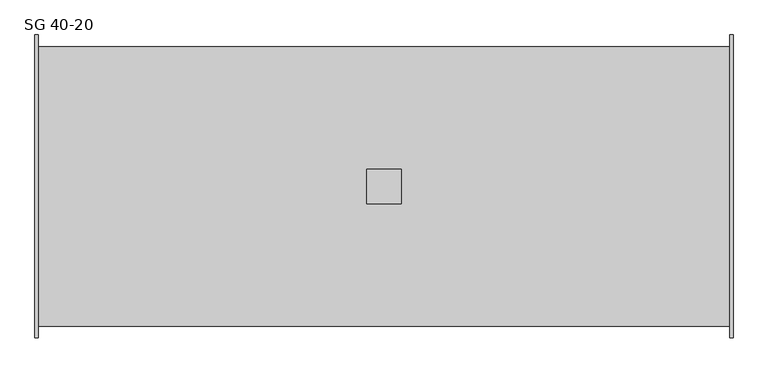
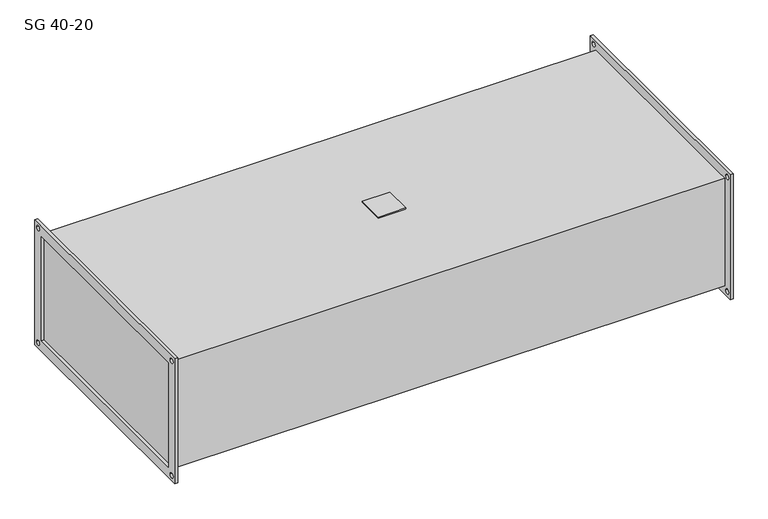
"""IFC4 building model written with IfcOpenShell, lengths in millimetres: damper geometry, KORF_Шумоглушитель_SG : SG 40-20."""

from ifc_helpers import new_model, si_unit, point, frame, frame_2d, origin, place, context, project, spatial, polyline, circle_curve, trimmed, segment, composite_curve, outline, extrude, source, transform, mapped, element, save


def sg_40_20_bcf9c2c2(model_context):
    return source(origin(), model_context, "Body", "SweptSolid", [
        extrude(outline(polyline([(482.0, -25.0), (482.0, 25.0), (532.0, 25.0), (532.0, -25.0), (482.0, -25.0)])), frame((0.0, 0.0, 103.0), z_axis=(0.0, 0.0, 1.0), x_axis=(1.0, 0.0, 0.0)), (0.0, 0.0, 1.0), 2.0),
        extrude(outline(polyline([(-220.0, 120.0), (220.0, 120.0), (220.0, -120.0), (-220.0, -120.0), (-220.0, 120.0)]), holes=[polyline([(-200.0, 100.0), (-200.0, -100.0), (200.0, -100.0), (200.0, 100.0), (-200.0, 100.0)]), composite_curve([segment(trimmed(circle_curve(frame_2d((210.0, 110.0)), 4.5), [point((205.5, 110.0))], [point((214.5, 110.0))], True, "CARTESIAN"), True, "CONTINUOUS"), segment(trimmed(circle_curve(frame_2d((210.0, 110.0)), 4.5), [point((214.5, 110.0))], [point((205.5, 110.0))], True, "CARTESIAN"), True, "CONTINUOUS")], self_intersect=False), composite_curve([segment(trimmed(circle_curve(frame_2d((-210.0, 110.0)), 4.5), [point((-214.5, 110.0))], [point((-205.5, 110.0))], True, "CARTESIAN"), True, "CONTINUOUS"), segment(trimmed(circle_curve(frame_2d((-210.0, 110.0)), 4.5), [point((-205.5, 110.0))], [point((-214.5, 110.0))], True, "CARTESIAN"), True, "CONTINUOUS")], self_intersect=False), composite_curve([segment(trimmed(circle_curve(frame_2d((-210.0, -110.0)), 4.5), [point((-214.5, -110.0))], [point((-205.5, -110.0))], True, "CARTESIAN"), True, "CONTINUOUS"), segment(trimmed(circle_curve(frame_2d((-210.0, -110.0)), 4.5), [point((-205.5, -110.0))], [point((-214.5, -110.0))], True, "CARTESIAN"), True, "CONTINUOUS")], self_intersect=False), composite_curve([segment(trimmed(circle_curve(frame_2d((210.0, -110.0)), 4.5), [point((205.5, -110.0))], [point((214.5, -110.0))], True, "CARTESIAN"), True, "CONTINUOUS"), segment(trimmed(circle_curve(frame_2d((210.0, -110.0)), 4.5), [point((214.5, -110.0))], [point((205.5, -110.0))], True, "CARTESIAN"), True, "CONTINUOUS")], self_intersect=False)]), frame((1009.0, 0.0, 0.0), z_axis=(1.0, 0.0, 0.0), x_axis=(0.0, 1.0, 0.0)), (0.0, 0.0, 1.0), 5.0),
        extrude(outline(polyline([(-220.0, 120.0), (220.0, 120.0), (220.0, -120.0), (-220.0, -120.0), (-220.0, 120.0)]), holes=[polyline([(-200.0, 100.0), (-200.0, -100.0), (200.0, -100.0), (200.0, 100.0), (-200.0, 100.0)]), composite_curve([segment(trimmed(circle_curve(frame_2d((210.0, 110.0)), 4.5), [point((205.5, 110.0))], [point((214.5, 110.0))], True, "CARTESIAN"), True, "CONTINUOUS"), segment(trimmed(circle_curve(frame_2d((210.0, 110.0)), 4.5), [point((214.5, 110.0))], [point((205.5, 110.0))], True, "CARTESIAN"), True, "CONTINUOUS")], self_intersect=False), composite_curve([segment(trimmed(circle_curve(frame_2d((-210.0, 110.0)), 4.5), [point((-214.5, 110.0))], [point((-205.5, 110.0))], True, "CARTESIAN"), True, "CONTINUOUS"), segment(trimmed(circle_curve(frame_2d((-210.0, 110.0)), 4.5), [point((-205.5, 110.0))], [point((-214.5, 110.0))], True, "CARTESIAN"), True, "CONTINUOUS")], self_intersect=False), composite_curve([segment(trimmed(circle_curve(frame_2d((-210.0, -110.0)), 4.5), [point((-214.5, -110.0))], [point((-205.5, -110.0))], True, "CARTESIAN"), True, "CONTINUOUS"), segment(trimmed(circle_curve(frame_2d((-210.0, -110.0)), 4.5), [point((-205.5, -110.0))], [point((-214.5, -110.0))], True, "CARTESIAN"), True, "CONTINUOUS")], self_intersect=False), composite_curve([segment(trimmed(circle_curve(frame_2d((210.0, -110.0)), 4.5), [point((205.5, -110.0))], [point((214.5, -110.0))], True, "CARTESIAN"), True, "CONTINUOUS"), segment(trimmed(circle_curve(frame_2d((210.0, -110.0)), 4.5), [point((214.5, -110.0))], [point((205.5, -110.0))], True, "CARTESIAN"), True, "CONTINUOUS")], self_intersect=False)]), frame((0.0, 0.0, 0.0), z_axis=(1.0, 0.0, 0.0), x_axis=(0.0, 1.0, 0.0)), (0.0, 0.0, 1.0), 5.0),
        extrude(outline(polyline([(1009.0, 203.0), (1009.0, -203.0), (5.0, -203.0), (5.0, 203.0), (1009.0, 203.0)])), frame((0.0, 0.0, -103.0), z_axis=(0.0, 0.0, 1.0), x_axis=(1.0, 0.0, 0.0)), (0.0, 0.0, 1.0), 206.0),
    ])


if __name__ == "__main__":
    model = new_model("IFC4")
    model_context = context("Model", 3, world=origin())
    ifc_project = project(units=[si_unit("LENGTHUNIT", "METRE", prefix="MILLI")], contexts=[model_context])
    site = spatial("IfcSite", under=ifc_project)
    building = spatial("IfcBuilding", under=site)
    placement = place(None, origin())
    sg_40_20_shape = sg_40_20_bcf9c2c2(model_context)
    element("IfcDamper", 1, ObjectType="KORF_Шумоглушитель_SG : SG 40-20", at=placement, inside=building, context=model_context, shape_type="MappedRepresentation", body=[
        mapped(sg_40_20_shape, transform((0.0, 0.0, 0.0), x_axis=(1.0, 0.0, 0.0), y_axis=(0.0, 1.0, 0.0), z_axis=(0.0, 0.0, 1.0))),
    ])
    save(model, "model.ifc")
